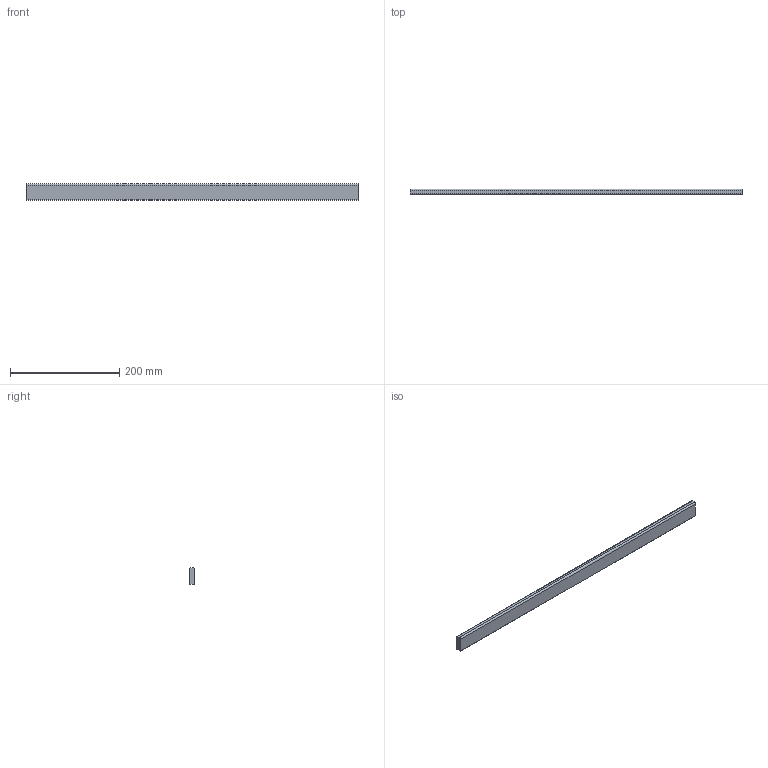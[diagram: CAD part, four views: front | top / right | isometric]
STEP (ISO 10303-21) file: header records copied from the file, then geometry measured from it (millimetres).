
FILE_DESCRIPTION (( 'STEP AP214' ), '1' );
FILE_NAME ('_Querreling_KAB-700_KS-19.step', '2010-08-26T14:58:36', ( 'grass' ), ( '' ), 'SwSTEP 2.0', 'SolidWorks 2009', '' );
FILE_SCHEMA (( 'AUTOMOTIVE_DESIGN' ));
Length unit declared in the file: millimetre
Products named in the file (1): _Querreling_KAB-700_KS-19
Bounding box: 606.5 x 10.5 x 30 mm (x, y, z)
Volume: 188444.4 mm3; surface area: 47665.4 mm2
Topology: 1 solids, 1 shells, 10 faces, 24 edges, 16 vertices
Faces by surface type: plane 6, cylinder 4
Entity records: 330 total; most frequent: DIRECTION 54, CARTESIAN_POINT 51, ORIENTED_EDGE 48, EDGE_CURVE 24, AXIS2_PLACEMENT_3D 19, LINE 16, VECTOR 16, VERTEX_POINT 16
